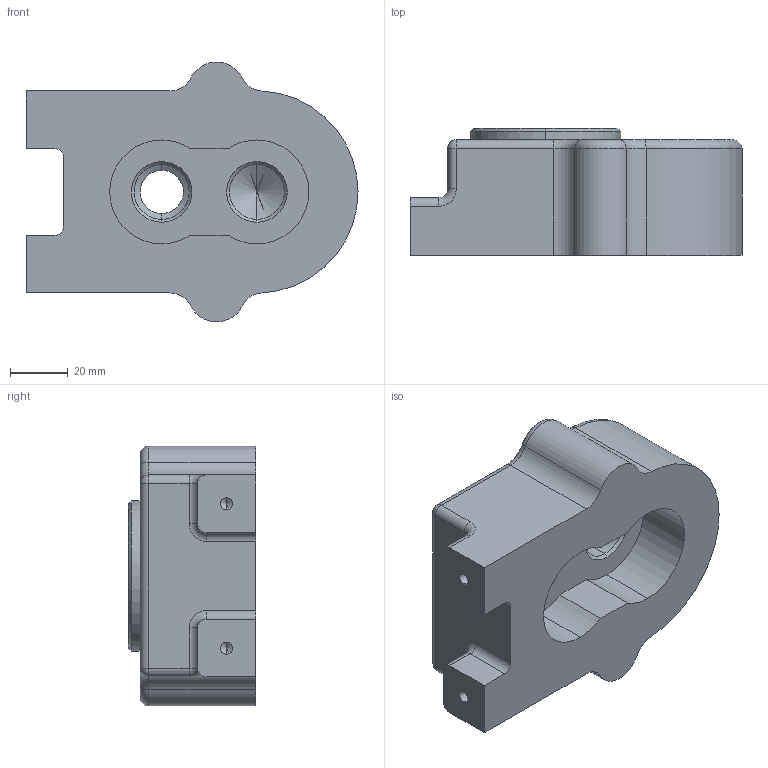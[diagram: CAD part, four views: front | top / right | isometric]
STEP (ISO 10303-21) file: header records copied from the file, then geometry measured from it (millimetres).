
FILE_DESCRIPTION (( 'STEP AP214' ), '1' );
FILE_NAME ('獄羹1.STEP', '2024-01-20T02:29:40', ( '' ), ( '' ), 'SwSTEP 2.0', 'SolidWorks 2023', '' );
FILE_SCHEMA (( 'AUTOMOTIVE_DESIGN' ));
Length unit declared in the file: millimetre
Products named in the file (1): 본체1
Bounding box: 115 x 44 x 89.96 mm (x, y, z)
Volume: 242927.7 mm3; surface area: 35147.2 mm2
Topology: 1 solids, 1 shells, 105 faces, 251 edges, 142 vertices
Faces by surface type: cylinder 49, cone 24, plane 16, torus 14, sphere 2
Entity records: 2953 total; most frequent: DIRECTION 576, CARTESIAN_POINT 483, ORIENTED_EDGE 470, EDGE_CURVE 235, AXIS2_PLACEMENT_3D 235, VERTEX_POINT 142, CIRCLE 129, EDGE_LOOP 117
